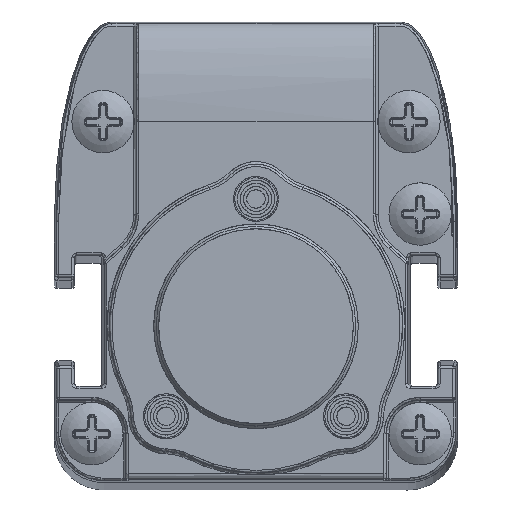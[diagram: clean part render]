
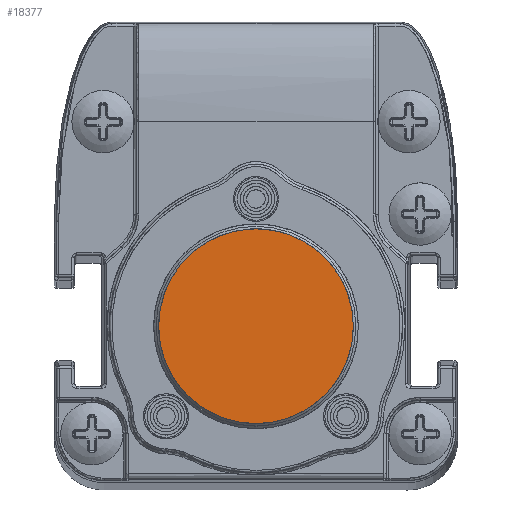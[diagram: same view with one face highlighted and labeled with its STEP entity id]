
A CAD part, top view. The second image highlights one B-rep face of the part: STEP entity #18377.
In plain terms, the highlighted planar face has unit normal (0, 0, 1).
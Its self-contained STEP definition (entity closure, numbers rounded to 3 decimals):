
#15648=B_SPLINE_CURVE_WITH_KNOTS('',3,(#62483,#62484,#62485,#62486,#62487,
#62488,#62489,#62490,#62491,#62492,#62493,#62494,#62495,#62496,#62497,#62498,
#62499,#62500,#62501,#62502,#62503,#62504,#62505,#62506,#62507,#62508,#62509,
#62510,#62511,#62512,#62513,#62514,#62515,#62516,#62517,#62518,#62519,#62520,
#62521,#62522,#62523,#62524,#62525,#62526,#62527,#62528,#62529,#62530,#62531,
#62532,#62533,#62534,#62535,#62536,#62537,#62538,#62539,#62540,#62541,#62542,
#62543,#62544,#62545,#62546,#62547,#62548,#62549,#62550,#62551,#62552,#62553,
#62554,#62555,#62556,#62557,#62558,#62559,#62560,#62561,#62562,#62563,#62564,
#62565,#62566,#62567,#62568,#62569,#62570,#62571,#62572,#62573,#62574,#62575,
#62576,#62577,#62578,#62579,#62580,#62581,#62582,#62583,#62584,#62585),
 .UNSPECIFIED.,.T.,.F.,(1,3,3,3,3,3,3,3,3,3,3,3,3,3,3,3,3,3,3,3,3,3,3,3,
3,3,3,3,3,3,3,3,3,3,3,3,1),(-0.029,0.,0.029,0.059,
0.088,0.118,0.147,0.176,
0.206,0.235,0.265,0.294,
0.324,0.353,0.382,0.412,
0.441,0.471,0.5,0.529,0.559,
0.588,0.618,0.647,0.676,
0.706,0.735,0.765,0.794,
0.824,0.853,0.882,0.912,
0.941,0.971,1.,1.029),.UNSPECIFIED.);
#18377=ADVANCED_FACE('',(#20403),#19353,.T.);
#19353=PLANE('',#43872);
#20403=FACE_OUTER_BOUND('',#21806,.T.);
#21806=EDGE_LOOP('',(#28038));
#28038=ORIENTED_EDGE('',*,*,#37152,.T.);
#32181=VERTEX_POINT('',#62586);
#37152=EDGE_CURVE('',#32181,#32181,#15648,.T.);
#43872=AXIS2_PLACEMENT_3D('',#62587,#47761,#47762);
#47761=DIRECTION('',(0.,0.,1.));
#47762=DIRECTION('',(1.,0.,0.));
#62483=CARTESIAN_POINT('',(7.8,0.,383.24));
#62484=CARTESIAN_POINT('',(7.8,0.465,383.24));
#62485=CARTESIAN_POINT('',(7.759,0.925,383.24));
#62486=CARTESIAN_POINT('',(7.679,1.376,383.24));
#62487=CARTESIAN_POINT('',(7.638,1.601,383.24));
#62488=CARTESIAN_POINT('',(7.588,1.825,383.24));
#62489=CARTESIAN_POINT('',(7.527,2.047,383.24));
#62490=CARTESIAN_POINT('',(7.466,2.269,383.24));
#62491=CARTESIAN_POINT('',(7.407,2.458,383.24));
#62492=CARTESIAN_POINT('',(7.315,2.708,383.24));
#62493=CARTESIAN_POINT('',(7.129,3.209,383.24));
#62494=CARTESIAN_POINT('',(6.898,3.683,383.24));
#62495=CARTESIAN_POINT('',(6.62,4.128,383.24));
#62496=CARTESIAN_POINT('',(6.343,4.573,383.24));
#62497=CARTESIAN_POINT('',(6.043,4.965,383.24));
#62498=CARTESIAN_POINT('',(5.651,5.376,383.24));
#62499=CARTESIAN_POINT('',(4.868,6.2,383.24));
#62500=CARTESIAN_POINT('',(3.912,6.837,383.24));
#62501=CARTESIAN_POINT('',(2.89,7.245,383.24));
#62502=CARTESIAN_POINT('',(2.378,7.449,383.24));
#62503=CARTESIAN_POINT('',(1.856,7.597,383.24));
#62504=CARTESIAN_POINT('',(1.324,7.689,383.24));
#62505=CARTESIAN_POINT('',(1.058,7.734,383.24));
#62506=CARTESIAN_POINT('',(0.79,7.766,383.24));
#62507=CARTESIAN_POINT('',(0.52,7.784,383.24));
#62508=CARTESIAN_POINT('',(0.249,7.801,383.24));
#62509=CARTESIAN_POINT('',(-0.055,7.804,383.24));
#62510=CARTESIAN_POINT('',(-0.3,7.794,383.24));
#62511=CARTESIAN_POINT('',(-0.79,7.775,383.24));
#62512=CARTESIAN_POINT('',(-1.271,7.712,383.24));
#62513=CARTESIAN_POINT('',(-1.742,7.604,383.24));
#62514=CARTESIAN_POINT('',(-2.213,7.496,383.24));
#62515=CARTESIAN_POINT('',(-2.713,7.327,383.24));
#62516=CARTESIAN_POINT('',(-3.123,7.147,383.24));
#62517=CARTESIAN_POINT('',(-3.534,6.968,383.24));
#62518=CARTESIAN_POINT('',(-3.924,6.757,383.24));
#62519=CARTESIAN_POINT('',(-4.293,6.513,383.24));
#62520=CARTESIAN_POINT('',(-4.477,6.392,383.24));
#62521=CARTESIAN_POINT('',(-4.656,6.262,383.24));
#62522=CARTESIAN_POINT('',(-4.83,6.125,383.24));
#62523=CARTESIAN_POINT('',(-5.004,5.987,383.24));
#62524=CARTESIAN_POINT('',(-5.15,5.864,383.24));
#62525=CARTESIAN_POINT('',(-5.337,5.688,383.24));
#62526=CARTESIAN_POINT('',(-5.712,5.337,383.24));
#62527=CARTESIAN_POINT('',(-6.047,4.956,383.24));
#62528=CARTESIAN_POINT('',(-6.341,4.545,383.24));
#62529=CARTESIAN_POINT('',(-6.635,4.134,383.24));
#62530=CARTESIAN_POINT('',(-6.869,3.738,383.24));
#62531=CARTESIAN_POINT('',(-7.102,3.226,383.24));
#62532=CARTESIAN_POINT('',(-7.567,2.203,383.24));
#62533=CARTESIAN_POINT('',(-7.8,1.124,383.24));
#62534=CARTESIAN_POINT('',(-7.8,0.,383.24));
#62535=CARTESIAN_POINT('',(-7.8,-0.562,383.24));
#62536=CARTESIAN_POINT('',(-7.742,-1.113,383.24));
#62537=CARTESIAN_POINT('',(-7.625,-1.651,383.24));
#62538=CARTESIAN_POINT('',(-7.509,-2.189,383.24));
#62539=CARTESIAN_POINT('',(-7.314,-2.758,383.24));
#62540=CARTESIAN_POINT('',(-7.102,-3.226,383.24));
#62541=CARTESIAN_POINT('',(-6.889,-3.694,383.24));
#62542=CARTESIAN_POINT('',(-6.636,-4.134,383.24));
#62543=CARTESIAN_POINT('',(-6.341,-4.544,383.24));
#62544=CARTESIAN_POINT('',(-6.194,-4.75,383.24));
#62545=CARTESIAN_POINT('',(-6.037,-4.947,383.24));
#62546=CARTESIAN_POINT('',(-5.87,-5.138,383.24));
#62547=CARTESIAN_POINT('',(-5.702,-5.329,383.24));
#62548=CARTESIAN_POINT('',(-5.5,-5.535,383.24));
#62549=CARTESIAN_POINT('',(-5.337,-5.688,383.24));
#62550=CARTESIAN_POINT('',(-5.01,-5.995,383.24));
#62551=CARTESIAN_POINT('',(-4.662,-6.27,383.24));
#62552=CARTESIAN_POINT('',(-4.293,-6.513,383.24));
#62553=CARTESIAN_POINT('',(-3.924,-6.756,383.24));
#62554=CARTESIAN_POINT('',(-3.573,-6.951,383.24));
#62555=CARTESIAN_POINT('',(-3.123,-7.147,383.24));
#62556=CARTESIAN_POINT('',(-2.674,-7.344,383.24));
#62557=CARTESIAN_POINT('',(-2.213,-7.496,383.24));
#62558=CARTESIAN_POINT('',(-1.743,-7.604,383.24));
#62559=CARTESIAN_POINT('',(-1.507,-7.658,383.24));
#62560=CARTESIAN_POINT('',(-1.269,-7.701,383.24));
#62561=CARTESIAN_POINT('',(-1.029,-7.732,383.24));
#62562=CARTESIAN_POINT('',(-0.789,-7.764,383.24));
#62563=CARTESIAN_POINT('',(-0.575,-7.784,383.24));
#62564=CARTESIAN_POINT('',(-0.3,-7.794,383.24));
#62565=CARTESIAN_POINT('',(0.801,-7.837,383.24));
#62566=CARTESIAN_POINT('',(1.834,-7.666,383.24));
#62567=CARTESIAN_POINT('',(2.89,-7.245,383.24));
#62568=CARTESIAN_POINT('',(3.417,-7.035,383.24));
#62569=CARTESIAN_POINT('',(3.912,-6.774,383.24));
#62570=CARTESIAN_POINT('',(4.372,-6.462,383.24));
#62571=CARTESIAN_POINT('',(4.833,-6.15,383.24));
#62572=CARTESIAN_POINT('',(5.283,-5.763,383.24));
#62573=CARTESIAN_POINT('',(5.651,-5.376,383.24));
#62574=CARTESIAN_POINT('',(6.019,-4.989,383.24));
#62575=CARTESIAN_POINT('',(6.342,-4.573,383.24));
#62576=CARTESIAN_POINT('',(6.62,-4.128,383.24));
#62577=CARTESIAN_POINT('',(6.759,-3.906,383.24));
#62578=CARTESIAN_POINT('',(6.886,-3.676,383.24));
#62579=CARTESIAN_POINT('',(7.002,-3.44,383.24));
#62580=CARTESIAN_POINT('',(7.117,-3.203,383.24));
#62581=CARTESIAN_POINT('',(7.234,-2.926,383.24));
#62582=CARTESIAN_POINT('',(7.315,-2.708,383.24));
#62583=CARTESIAN_POINT('',(7.638,-1.835,383.24));
#62584=CARTESIAN_POINT('',(7.8,-0.933,383.24));
#62585=CARTESIAN_POINT('',(7.8,0.,383.24));
#62586=CARTESIAN_POINT('',(7.8,0.,383.24));
#62587=CARTESIAN_POINT('',(-8.9,-8.81,383.24));
